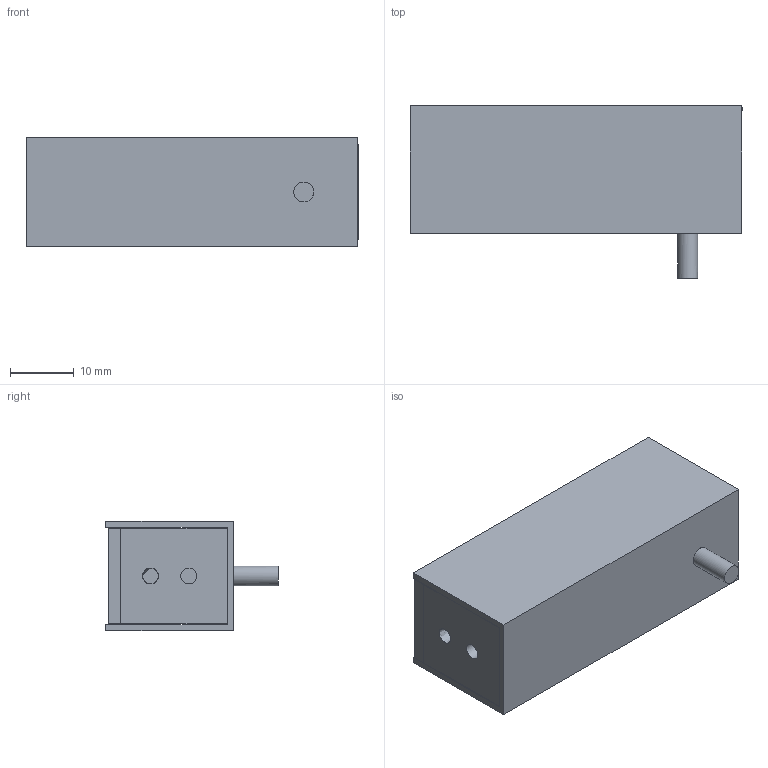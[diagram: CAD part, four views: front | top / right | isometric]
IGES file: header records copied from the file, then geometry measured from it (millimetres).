
Global section: file name: 153-00756_LB 44 xD-24-KFL5; native system: Autodesk Inventor 2018; preprocessor: unknown; author: ss; date: 20180726.093243; units: millimetre
Bounding box: 52 x 27 x 17.2 mm (x, y, z)
Volume: 17325.7 mm3; surface area: 8737 mm2
Topology: 1 solids, 1 shells, 38 faces, 99 edges, 70 vertices
Faces by surface type: bspline 38
